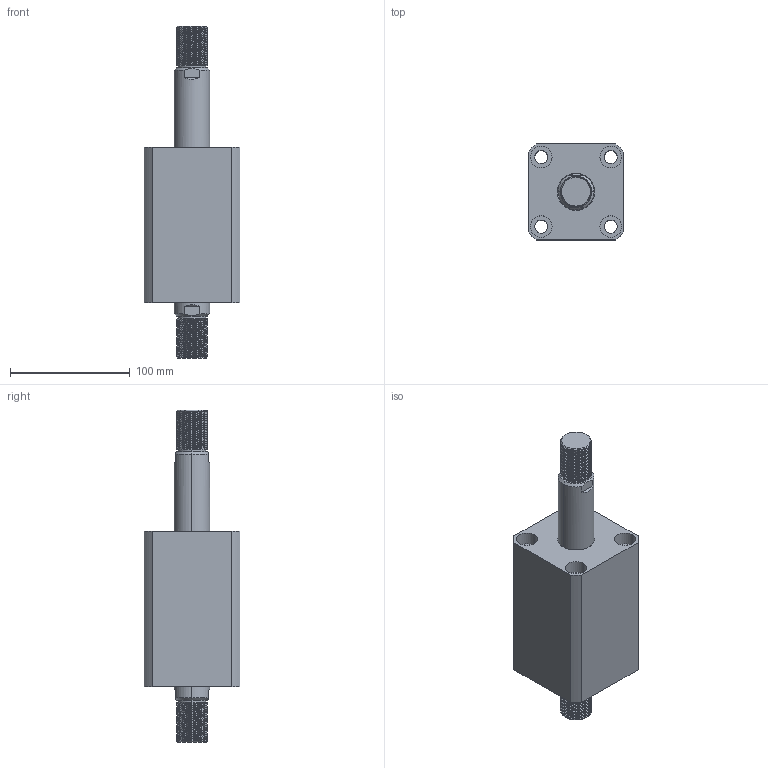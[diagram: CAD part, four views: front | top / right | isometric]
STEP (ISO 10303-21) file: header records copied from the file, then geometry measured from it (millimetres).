
FILE_DESCRIPTION (( 'STEP AP203' ), '1' );
FILE_NAME ('CHTB-SW50-55W.STEP', '2018-05-21T06:26:23', ( '' ), ( '' ), 'SwSTEP 2.0', 'SolidWorks 2015', '' );
FILE_SCHEMA (( 'CONFIG_CONTROL_DESIGN' ));
Length unit declared in the file: millimetre
Products named in the file (4): CHTB-SW50-55W; 掛极SW50-55W; 活塞杆SW50-55W; ヶ裔
Assembly tree (3 placements, depth 2):
  CHTB-SW50-55W
    掛极SW50-55W
    活塞杆SW50-55W
    ヶ裔
Bounding box: 80 x 80 x 277 mm (x, y, z)
Volume: 768276.4 mm3; surface area: 141464.9 mm2
Topology: 3 solids, 3 shells, 314 faces, 794 edges, 514 vertices
Faces by surface type: cylinder 202, plane 51, cone 29, torus 24, bspline 8
Entity records: 17377 total; most frequent: CARTESIAN_POINT 10049, ORIENTED_EDGE 1580, DIRECTION 1358, EDGE_CURVE 790, AXIS2_PLACEMENT_3D 549, VERTEX_POINT 514, EDGE_LOOP 362, ADVANCED_FACE 314
